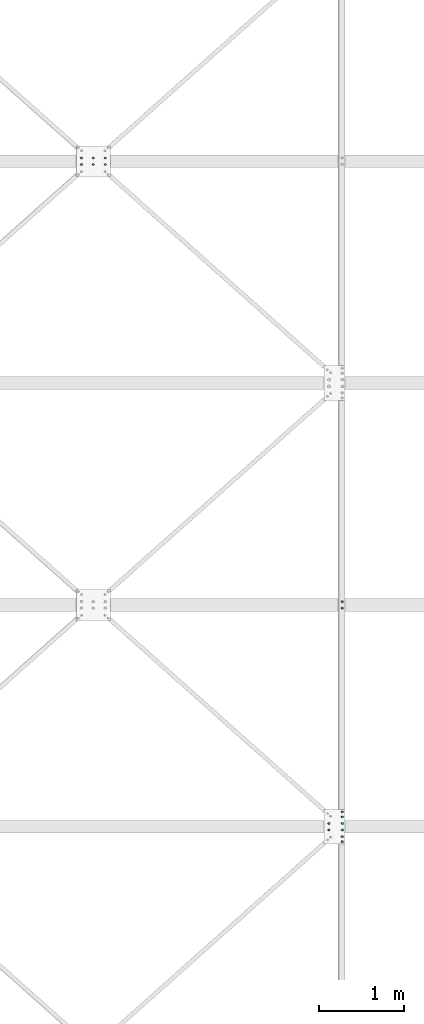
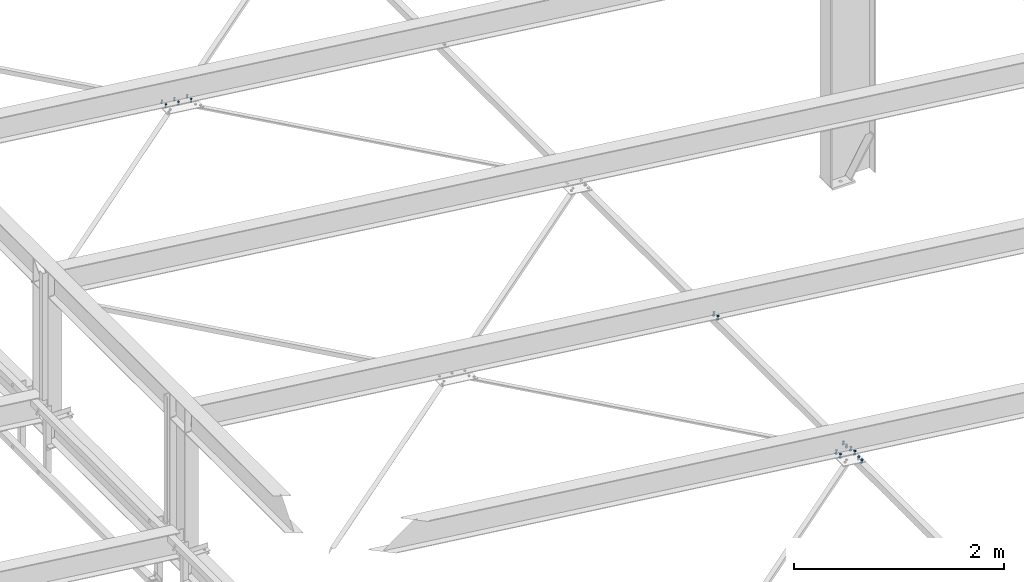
# One storey, part 256 of 3134: 5 mechanical fasteners, 4 elements without a shape of their own.
"""IFC2X3 building model written with IfcOpenShell, lengths in millimetres."""

from ifc_helpers import new_model, si_unit, frame, origin_with_axes, place, context, subcontext, project, spatial, faceted_brep, source, transform, mapped, material, type_object, element, aggregate, save


model = new_model("IFC2X3")

# Units and contexts
model_context = context("Model", 3, precision=1e-05, world=origin_with_axes())
body_context = subcontext(model_context, "Body", "Model", "MODEL_VIEW")
ifc_project = project(units=[si_unit("LENGTHUNIT", "METRE", prefix="MILLI"), si_unit("AREAUNIT", "SQUARE_METRE"), si_unit("VOLUMEUNIT", "CUBIC_METRE"), si_unit("MASSUNIT", "GRAM", prefix="KILO"), si_unit("TIMEUNIT", "SECOND"), si_unit("PLANEANGLEUNIT", "RADIAN"), si_unit("SOLIDANGLEUNIT", "STERADIAN"), si_unit("THERMODYNAMICTEMPERATUREUNIT", "DEGREE_CELSIUS"), si_unit("LUMINOUSINTENSITYUNIT", "LUMEN")], contexts=[model_context])

# Site, building, storey
site_placement = place(None, origin_with_axes())
site = spatial("IfcSite", under=ifc_project, at=site_placement, CompositionType="ELEMENT")
building_placement = place(site_placement, origin_with_axes())
building = spatial("IfcBuilding", under=site, at=building_placement, Name="Undefined", CompositionType="ELEMENT")
storey_placement = place(building_placement, origin_with_axes())
storey = spatial("IfcBuildingStorey", under=building, at=storey_placement, Name="Undefined", CompositionType="ELEMENT", Elevation=0.0)

# Assembly, mechanical fastener
assembly_1_placement = place(storey_placement, origin_with_axes())
assembly_1 = element("IfcElementAssembly", 1, at=assembly_1_placement, inside=storey, AssemblyPlace="NOTDEFINED", PredefinedType="RIGID_FRAME")
ifc_material = material(Name="8.8")
mechanical_fastener_type = type_object("IfcMechanicalFastenerType", Name="Bolt assembly")
shared_shape_1 = source(origin_with_axes(), body_context, "Body", "Brep", [
    faceted_brep([(13.856406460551, -19.199990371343, 0.0), (6.92820323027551, -19.199990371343, 12.0), (-6.92820323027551, -19.199990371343, 12.0), (-13.856406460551, -19.199990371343, 1.69692038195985e-15), (-6.92820323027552, -19.199990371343, -12.0), (6.9282032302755, -19.199990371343, -12.0), (6.9282032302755, -9.19999037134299, -12.0), (-6.92820323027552, -9.19999037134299, -12.0), (-13.856406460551, -9.19999037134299, 1.69692038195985e-15), (-6.92820323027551, -9.19999037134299, 12.0), (6.92820323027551, -9.19999037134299, 12.0), (13.856406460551, -9.19999037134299, 0.0), (8.0, -9.19999037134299, 0.0), (6.92820323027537, -9.19999037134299, 4.00000000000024), (3.99999999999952, -9.19999037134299, 6.92820323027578), (-8.29068785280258e-13, -9.19999037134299, 8.0), (-4.00000000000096, -9.19999037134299, 6.92820323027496), (-6.9282032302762, -9.19999037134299, 3.99999999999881), (-8.0, -9.19999037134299, -1.65813757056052e-12), (-6.92820323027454, -9.19999037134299, -4.00000000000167), (-3.99999999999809, -9.19999037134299, -6.92820323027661), (2.47832457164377e-12, -9.19999037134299, -8.0), (4.00000000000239, -9.19999037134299, -6.92820323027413), (6.92820323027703, -9.19999037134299, -3.99999999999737), (6.92820323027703, 35.8000002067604, -3.99999999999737), (4.00000000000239, 35.8000002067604, -6.92820323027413), (2.47832457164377e-12, 35.8000002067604, -8.0), (-3.99999999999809, 35.8000002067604, -6.92820323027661), (-6.92820323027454, 35.8000002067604, -4.00000000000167), (-8.0, 35.8000002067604, -1.65813757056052e-12), (-6.9282032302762, 35.8000002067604, 3.99999999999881), (-4.00000000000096, 35.8000002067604, 6.92820323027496), (-8.29068785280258e-13, 35.8000002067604, 8.0), (3.99999999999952, 35.8000002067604, 6.92820323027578), (6.92820323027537, 35.8000002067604, 4.00000000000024), (8.0, 35.8000002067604, 0.0), (13.856406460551, 14.9999995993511, 0.0), (6.92820323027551, 14.9999995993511, 12.0), (-6.92820323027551, 14.9999995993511, 12.0), (-13.856406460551, 14.9999995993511, 1.69692038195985e-15), (-6.92820323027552, 14.9999995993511, -12.0), (6.9282032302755, 14.9999995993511, -12.0), (6.9282032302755, 27.9999995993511, -12.0), (-6.92820323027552, 27.9999995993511, -12.0), (-13.856406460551, 27.9999995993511, 1.69692038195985e-15), (-6.92820323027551, 27.9999995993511, 12.0), (6.92820323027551, 27.9999995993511, 12.0), (13.856406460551, 27.9999995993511, 0.0)], [[[0, 1, 2, 3, 4, 5]], [[6, 7, 8, 9, 10, 11]], [[0, 11, 10, 1]], [[1, 10, 9, 2]], [[2, 9, 8, 3]], [[3, 8, 7, 4]], [[4, 7, 6, 5]], [[5, 6, 11, 0]], [[12, 13, 14, 15, 16, 17, 18, 19, 20, 21, 22, 23]], [[24, 25, 26, 27, 28, 29, 30, 31, 32, 33, 34, 35]], [[12, 35, 34, 13]], [[13, 34, 33, 14]], [[14, 33, 32, 15]], [[15, 32, 31, 16]], [[16, 31, 30, 17]], [[17, 30, 29, 18]], [[18, 29, 28, 19]], [[19, 28, 27, 20]], [[20, 27, 26, 21]], [[21, 26, 25, 22]], [[22, 25, 24, 23]], [[23, 24, 35, 12]], [[36, 37, 38, 39, 40, 41]], [[42, 43, 44, 45, 46, 47]], [[36, 47, 46, 37]], [[37, 46, 45, 38]], [[38, 45, 44, 39]], [[39, 44, 43, 40]], [[40, 43, 42, 41]], [[41, 42, 47, 36]]]),
    faceted_brep([(9.0, -9.09999037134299, 0.0), (7.79422863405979, -9.09999037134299, 4.50000000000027), (4.49999999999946, -9.09999037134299, 7.79422863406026), (-9.3270238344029e-13, -9.09999037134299, 9.0), (-4.50000000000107, -9.09999037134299, 7.79422863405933), (-7.79422863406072, -9.09999037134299, 4.49999999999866), (-9.0, -9.09999037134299, -1.86540476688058e-12), (-7.79422863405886, -9.09999037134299, -4.50000000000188), (-4.49999999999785, -9.09999037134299, -7.79422863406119), (2.78811514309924e-12, -9.09999037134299, -9.0), (4.50000000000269, -9.09999037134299, -7.7942286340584), (7.79422863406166, -9.09999037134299, -4.49999999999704), (7.79422863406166, 0.100000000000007, -4.49999999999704), (4.50000000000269, 0.100000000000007, -7.7942286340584), (2.78811514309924e-12, 0.100000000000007, -9.0), (-4.49999999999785, 0.100000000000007, -7.79422863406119), (-7.79422863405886, 0.100000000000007, -4.50000000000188), (-9.0, 0.100000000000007, -1.86540476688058e-12), (-7.79422863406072, 0.100000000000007, 4.49999999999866), (-4.50000000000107, 0.100000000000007, 7.79422863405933), (-9.3270238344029e-13, 0.100000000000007, 9.0), (4.49999999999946, 0.100000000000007, 7.79422863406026), (7.79422863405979, 0.100000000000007, 4.50000000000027), (9.0, 0.100000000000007, 0.0), (9.0, 7.9, 0.0), (7.79422863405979, 7.9, 4.50000000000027), (4.49999999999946, 7.9, 7.79422863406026), (-9.3270238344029e-13, 7.9, 9.0), (-4.50000000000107, 7.9, 7.79422863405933), (-7.79422863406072, 7.9, 4.49999999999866), (-9.0, 7.9, -1.86540476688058e-12), (-7.79422863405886, 7.9, -4.50000000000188), (-4.49999999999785, 7.9, -7.79422863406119), (2.78811514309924e-12, 7.9, -9.0), (4.50000000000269, 7.9, -7.7942286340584), (7.79422863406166, 7.9, -4.49999999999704), (7.79422863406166, 14.9999995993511, -4.49999999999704), (4.50000000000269, 14.9999995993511, -7.7942286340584), (2.78811514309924e-12, 14.9999995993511, -9.0), (-4.49999999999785, 14.9999995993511, -7.79422863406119), (-7.79422863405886, 14.9999995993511, -4.50000000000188), (-9.0, 14.9999995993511, -1.86540476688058e-12), (-7.79422863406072, 14.9999995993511, 4.49999999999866), (-4.50000000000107, 14.9999995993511, 7.79422863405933), (-9.3270238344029e-13, 14.9999995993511, 9.0), (4.49999999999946, 14.9999995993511, 7.79422863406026), (7.79422863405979, 14.9999995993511, 4.50000000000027), (9.0, 14.9999995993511, 0.0)], [[[0, 1, 2, 3, 4, 5, 6, 7, 8, 9, 10, 11]], [[12, 13, 14, 15, 16, 17, 18, 19, 20, 21, 22, 23]], [[0, 23, 22, 1]], [[1, 22, 21, 2]], [[2, 21, 20, 3]], [[3, 20, 19, 4]], [[4, 19, 18, 5]], [[5, 18, 17, 6]], [[6, 17, 16, 7]], [[7, 16, 15, 8]], [[8, 15, 14, 9]], [[9, 14, 13, 10]], [[10, 13, 12, 11]], [[11, 12, 23, 0]], [[24, 25, 26, 27, 28, 29, 30, 31, 32, 33, 34, 35]], [[36, 37, 38, 39, 40, 41, 42, 43, 44, 45, 46, 47]], [[24, 47, 46, 25]], [[25, 46, 45, 26]], [[26, 45, 44, 27]], [[27, 44, 43, 28]], [[28, 43, 42, 29]], [[29, 42, 41, 30]], [[30, 41, 40, 31]], [[31, 40, 39, 32]], [[32, 39, 38, 33]], [[33, 38, 37, 34]], [[34, 37, 36, 35]], [[35, 36, 47, 24]]]),
])
mechanical_fastener_1_placement = place(assembly_1_placement, frame((50037.9849612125, 32412.0, 4806.73358922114), z_axis=(-0.992623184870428, 0.0, 0.121240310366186), x_axis=(0.0, 1.0, 0.0)))
mechanical_fastener_1 = element("IfcMechanicalFastener", 2, at=mechanical_fastener_1_placement, type_object=mechanical_fastener_type, material=ifc_material, Name="Bolt assembly", NominalDiameter=16.0, NominalLength=45.0, context=body_context, shape_type="MappedRepresentation", body=[
    mapped(shared_shape_1, transform((0.0, 0.0, 0.0))),
    mapped(shared_shape_1, transform((76.0, 0.0, 0.0))),
])
aggregate(assembly_1, [mechanical_fastener_1])

# Assembly, mechanical fasteners
assembly_2_placement = place(storey_placement, origin_with_axes())
assembly_2 = element("IfcElementAssembly", 3, at=assembly_2_placement, inside=storey, Name="PL8", AssemblyPlace="NOTDEFINED", PredefinedType="RIGID_FRAME")
shared_shape_2 = source(origin_with_axes(), body_context, "Body", "Brep", [
    faceted_brep([(13.856406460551, -10.0, 0.0), (6.92820323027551, -10.0, 12.0), (-6.92820323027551, -10.0, 12.0), (-13.856406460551, -10.0, 1.69692038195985e-15), (-6.92820323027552, -10.0, -12.0), (6.9282032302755, -10.0, -12.0), (6.9282032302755, 0.0, -12.0), (-6.92820323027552, 0.0, -12.0), (-13.856406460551, 0.0, 1.69692038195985e-15), (-6.92820323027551, 0.0, 12.0), (6.92820323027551, 0.0, 12.0), (13.856406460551, 0.0, 0.0), (8.0, 0.0, 0.0), (6.92820323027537, 0.0, 4.00000000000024), (3.99999999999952, 0.0, 6.92820323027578), (-8.29068785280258e-13, 0.0, 8.0), (-4.00000000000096, 0.0, 6.92820323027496), (-6.9282032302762, 0.0, 3.99999999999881), (-8.0, 0.0, -1.65813757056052e-12), (-6.92820323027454, 0.0, -4.00000000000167), (-3.99999999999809, 0.0, -6.92820323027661), (2.47832457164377e-12, 0.0, -8.0), (4.00000000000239, 0.0, -6.92820323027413), (6.92820323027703, 0.0, -3.99999999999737), (6.92820323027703, 35.0000000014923, -3.99999999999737), (4.00000000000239, 35.0000000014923, -6.92820323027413), (2.47832457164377e-12, 35.0000000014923, -8.0), (-3.99999999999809, 35.0000000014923, -6.92820323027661), (-6.92820323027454, 35.0000000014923, -4.00000000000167), (-8.0, 35.0000000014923, -1.65813757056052e-12), (-6.9282032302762, 35.0000000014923, 3.99999999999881), (-4.00000000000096, 35.0000000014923, 6.92820323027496), (-8.29068785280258e-13, 35.0000000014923, 8.0), (3.99999999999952, 35.0000000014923, 6.92820323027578), (6.92820323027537, 35.0000000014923, 4.00000000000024), (8.0, 35.0000000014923, 0.0), (13.856406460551, 14.9999995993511, 0.0), (6.92820323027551, 14.9999995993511, 12.0), (-6.92820323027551, 14.9999995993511, 12.0), (-13.856406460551, 14.9999995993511, 1.69692038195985e-15), (-6.92820323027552, 14.9999995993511, -12.0), (6.9282032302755, 14.9999995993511, -12.0), (6.9282032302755, 27.9999995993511, -12.0), (-6.92820323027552, 27.9999995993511, -12.0), (-13.856406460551, 27.9999995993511, 1.69692038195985e-15), (-6.92820323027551, 27.9999995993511, 12.0), (6.92820323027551, 27.9999995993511, 12.0), (13.856406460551, 27.9999995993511, 0.0)], [[[0, 1, 2, 3, 4, 5]], [[6, 7, 8, 9, 10, 11]], [[0, 11, 10, 1]], [[1, 10, 9, 2]], [[2, 9, 8, 3]], [[3, 8, 7, 4]], [[4, 7, 6, 5]], [[5, 6, 11, 0]], [[12, 13, 14, 15, 16, 17, 18, 19, 20, 21, 22, 23]], [[24, 25, 26, 27, 28, 29, 30, 31, 32, 33, 34, 35]], [[12, 35, 34, 13]], [[13, 34, 33, 14]], [[14, 33, 32, 15]], [[15, 32, 31, 16]], [[16, 31, 30, 17]], [[17, 30, 29, 18]], [[18, 29, 28, 19]], [[19, 28, 27, 20]], [[20, 27, 26, 21]], [[21, 26, 25, 22]], [[22, 25, 24, 23]], [[23, 24, 35, 12]], [[36, 37, 38, 39, 40, 41]], [[42, 43, 44, 45, 46, 47]], [[36, 47, 46, 37]], [[37, 46, 45, 38]], [[38, 45, 44, 39]], [[39, 44, 43, 40]], [[40, 43, 42, 41]], [[41, 42, 47, 36]]]),
    faceted_brep([(9.0, 7.9, 0.0), (7.79422863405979, 7.9, 4.50000000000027), (4.49999999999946, 7.9, 7.79422863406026), (-9.3270238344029e-13, 7.9, 9.0), (-4.50000000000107, 7.9, 7.79422863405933), (-7.79422863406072, 7.9, 4.49999999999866), (-9.0, 7.9, -1.86540476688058e-12), (-7.79422863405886, 7.9, -4.50000000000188), (-4.49999999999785, 7.9, -7.79422863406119), (2.78811514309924e-12, 7.9, -9.0), (4.50000000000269, 7.9, -7.7942286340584), (7.79422863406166, 7.9, -4.49999999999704), (7.79422863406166, 14.9999995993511, -4.49999999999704), (4.50000000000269, 14.9999995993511, -7.7942286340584), (2.78811514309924e-12, 14.9999995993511, -9.0), (-4.49999999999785, 14.9999995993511, -7.79422863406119), (-7.79422863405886, 14.9999995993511, -4.50000000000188), (-9.0, 14.9999995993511, -1.86540476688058e-12), (-7.79422863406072, 14.9999995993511, 4.49999999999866), (-4.50000000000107, 14.9999995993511, 7.79422863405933), (-9.3270238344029e-13, 14.9999995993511, 9.0), (4.49999999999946, 14.9999995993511, 7.79422863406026), (7.79422863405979, 14.9999995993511, 4.50000000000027), (9.0, 14.9999995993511, 0.0), (9.0, 0.100000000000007, 0.0), (7.79422863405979, 0.100000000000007, 4.50000000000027), (4.49999999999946, 0.100000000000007, 7.79422863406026), (-9.3270238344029e-13, 0.100000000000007, 9.0), (-4.50000000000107, 0.100000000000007, 7.79422863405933), (-7.79422863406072, 0.100000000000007, 4.49999999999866), (-9.0, 0.100000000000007, -1.86540476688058e-12), (-7.79422863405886, 0.100000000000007, -4.50000000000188), (-4.49999999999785, 0.100000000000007, -7.79422863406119), (2.78811514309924e-12, 0.100000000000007, -9.0), (4.50000000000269, 0.100000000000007, -7.7942286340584), (7.79422863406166, 0.100000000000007, -4.49999999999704), (7.79422863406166, 8.1, -4.49999999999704), (4.50000000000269, 8.1, -7.7942286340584), (2.78811514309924e-12, 8.1, -9.0), (-4.49999999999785, 8.1, -7.79422863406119), (-7.79422863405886, 8.1, -4.50000000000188), (-9.0, 8.1, -1.86540476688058e-12), (-7.79422863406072, 8.1, 4.49999999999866), (-4.50000000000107, 8.1, 7.79422863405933), (-9.3270238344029e-13, 8.1, 9.0), (4.49999999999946, 8.1, 7.79422863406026), (7.79422863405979, 8.1, 4.50000000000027), (9.0, 8.1, 0.0)], [[[0, 1, 2, 3, 4, 5, 6, 7, 8, 9, 10, 11]], [[12, 13, 14, 15, 16, 17, 18, 19, 20, 21, 22, 23]], [[0, 23, 22, 1]], [[1, 22, 21, 2]], [[2, 21, 20, 3]], [[3, 20, 19, 4]], [[4, 19, 18, 5]], [[5, 18, 17, 6]], [[6, 17, 16, 7]], [[7, 16, 15, 8]], [[8, 15, 14, 9]], [[9, 14, 13, 10]], [[10, 13, 12, 11]], [[11, 12, 23, 0]], [[24, 25, 26, 27, 28, 29, 30, 31, 32, 33, 34, 35]], [[36, 37, 38, 39, 40, 41, 42, 43, 44, 45, 46, 47]], [[24, 47, 46, 25]], [[25, 46, 45, 26]], [[26, 45, 44, 27]], [[27, 44, 43, 28]], [[28, 43, 42, 29]], [[29, 42, 41, 30]], [[30, 41, 40, 31]], [[31, 40, 39, 32]], [[32, 39, 38, 33]], [[33, 38, 37, 34]], [[34, 37, 36, 35]], [[35, 36, 47, 24]]]),
])
mechanical_fastener_2_placement = place(assembly_2_placement, frame((50037.9849612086, 29735.0, 4806.73358922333), z_axis=(0.992623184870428, 0.0, -0.121240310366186), x_axis=(0.0, -1.0, 0.0)))
mechanical_fastener_2 = element("IfcMechanicalFastener", 4, at=mechanical_fastener_2_placement, type_object=mechanical_fastener_type, material=ifc_material, Name="Bolt assembly", NominalDiameter=16.0, NominalLength=35.0, context=body_context, shape_type="MappedRepresentation", body=[
    mapped(shared_shape_2, transform((0.0, 0.0, 0.0))),
    mapped(shared_shape_2, transform((59.9999999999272, 0.0, 5.40239852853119e-10))),
])
mechanical_fastener_3_placement = place(assembly_2_placement, frame((50037.9849612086, 30025.0, 4806.73358922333), z_axis=(0.992623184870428, 0.0, -0.121240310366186), x_axis=(0.0, -1.0, 0.0)))
mechanical_fastener_3 = element("IfcMechanicalFastener", 5, at=mechanical_fastener_3_placement, type_object=mechanical_fastener_type, material=ifc_material, Name="Bolt assembly", NominalDiameter=16.0, NominalLength=35.0, context=body_context, shape_type="MappedRepresentation", body=[
    mapped(shared_shape_2, transform((0.0, 0.0, 0.0))),
    mapped(shared_shape_2, transform((59.9999999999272, 0.0, 5.40239852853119e-10))),
])
aggregate(assembly_2, [mechanical_fastener_2, mechanical_fastener_3])

# Assembly, mechanical fastener
assembly_3_placement = place(storey_placement, origin_with_axes())
assembly_3 = element("IfcElementAssembly", 6, at=assembly_3_placement, inside=storey, Name="300", AssemblyPlace="NOTDEFINED", PredefinedType="RIGID_FRAME")
shared_shape_3 = source(origin_with_axes(), body_context, "Body", "Brep", [
    faceted_brep([(10.9696551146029, -17.1999998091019, 0.0), (5.48482755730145, -17.1999998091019, 9.5), (-5.48482755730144, -17.1999998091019, 9.5), (-10.9696551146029, -17.1999998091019, 1.34339530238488e-15), (-5.48482755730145, -17.1999998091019, -9.5), (5.48482755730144, -17.1999998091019, -9.50000000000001), (5.48482755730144, -9.19999978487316, -9.50000000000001), (-5.48482755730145, -9.19999978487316, -9.5), (-10.9696551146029, -9.19999978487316, 1.34339530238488e-15), (-5.48482755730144, -9.19999978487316, 9.5), (5.48482755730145, -9.19999978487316, 9.5), (10.9696551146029, -9.19999978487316, 0.0), (6.0, -9.19999978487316, 0.0), (5.19615242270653, -9.19999978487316, 3.00000000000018), (2.99999999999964, -9.19999978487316, 5.19615242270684), (-6.21801588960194e-13, -9.19999978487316, 6.0), (-3.00000000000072, -9.19999978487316, 5.19615242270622), (-5.19615242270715, -9.19999978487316, 2.9999999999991), (-6.0, -9.19999978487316, -1.24360317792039e-12), (-5.19615242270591, -9.19999978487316, -3.00000000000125), (-2.99999999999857, -9.19999978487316, -5.19615242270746), (1.85874342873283e-12, -9.19999978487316, -6.0), (3.00000000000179, -9.19999978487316, -5.1961524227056), (5.19615242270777, -9.19999978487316, -2.99999999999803), (5.19615242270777, 25.8000002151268, -2.99999999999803), (3.00000000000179, 25.8000002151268, -5.1961524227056), (1.85874342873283e-12, 25.8000002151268, -6.0), (-2.99999999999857, 25.8000002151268, -5.19615242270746), (-5.19615242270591, 25.8000002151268, -3.00000000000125), (-6.0, 25.8000002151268, -1.24360317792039e-12), (-5.19615242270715, 25.8000002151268, 2.9999999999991), (-3.00000000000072, 25.8000002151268, 5.19615242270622), (-6.21801588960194e-13, 25.8000002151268, 6.0), (2.99999999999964, 25.8000002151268, 5.19615242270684), (5.19615242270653, 25.8000002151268, 3.00000000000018), (6.0, 25.8000002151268, 0.0), (10.9696551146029, 8.0, 0.0), (5.48482755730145, 8.0, 9.5), (-5.48482755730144, 8.0, 9.5), (-10.9696551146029, 8.0, 1.34339530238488e-15), (-5.48482755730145, 8.0, -9.5), (5.48482755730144, 8.0, -9.50000000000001), (5.48482755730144, 18.0, -9.50000000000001), (-5.48482755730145, 18.0, -9.5), (-10.9696551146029, 18.0, 1.34339530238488e-15), (-5.48482755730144, 18.0, 9.5), (5.48482755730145, 18.0, 9.5), (10.9696551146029, 18.0, 0.0)], [[[0, 1, 2, 3, 4, 5]], [[6, 7, 8, 9, 10, 11]], [[0, 11, 10, 1]], [[1, 10, 9, 2]], [[2, 9, 8, 3]], [[3, 8, 7, 4]], [[4, 7, 6, 5]], [[5, 6, 11, 0]], [[12, 13, 14, 15, 16, 17, 18, 19, 20, 21, 22, 23]], [[24, 25, 26, 27, 28, 29, 30, 31, 32, 33, 34, 35]], [[12, 35, 34, 13]], [[13, 34, 33, 14]], [[14, 33, 32, 15]], [[15, 32, 31, 16]], [[16, 31, 30, 17]], [[17, 30, 29, 18]], [[18, 29, 28, 19]], [[19, 28, 27, 20]], [[20, 27, 26, 21]], [[21, 26, 25, 22]], [[22, 25, 24, 23]], [[23, 24, 35, 12]], [[36, 37, 38, 39, 40, 41]], [[42, 43, 44, 45, 46, 47]], [[36, 47, 46, 37]], [[37, 46, 45, 38]], [[38, 45, 44, 39]], [[39, 44, 43, 40]], [[40, 43, 42, 41]], [[41, 42, 47, 36]]]),
    faceted_brep([(7.0, -0.1, 0.0), (6.06217782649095, -0.1, 3.50000000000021), (3.49999999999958, -0.1, 6.06217782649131), (-7.25435187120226e-13, -0.1, 7.0), (-3.50000000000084, -0.1, 6.06217782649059), (-6.06217782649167, -0.1, 3.49999999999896), (-7.0, -0.1, -1.45087037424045e-12), (-6.06217782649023, -0.1, -3.50000000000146), (-3.49999999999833, -0.1, -6.06217782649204), (2.1685340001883e-12, -0.1, -7.0), (3.50000000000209, -0.1, -6.06217782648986), (6.0621778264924, -0.1, -3.4999999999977), (6.0621778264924, 8.0000000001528, -3.4999999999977), (3.50000000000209, 8.0000000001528, -6.06217782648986), (2.1685340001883e-12, 8.0000000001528, -7.0), (-3.49999999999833, 8.0000000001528, -6.06217782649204), (-6.06217782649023, 8.0000000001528, -3.50000000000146), (-7.0, 8.0000000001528, -1.45087037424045e-12), (-6.06217782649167, 8.0000000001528, 3.49999999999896), (-3.50000000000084, 8.0000000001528, 6.06217782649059), (-7.25435187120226e-13, 8.0000000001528, 7.0), (3.49999999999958, 8.0000000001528, 6.06217782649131), (6.06217782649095, 8.0000000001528, 3.50000000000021), (7.0, 8.0000000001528, 0.0), (7.0, -9.09999980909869, 0.0), (6.06217782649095, -9.09999980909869, 3.50000000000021), (3.49999999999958, -9.09999980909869, 6.06217782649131), (-7.25435187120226e-13, -9.09999980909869, 7.0), (-3.50000000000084, -9.09999980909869, 6.06217782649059), (-6.06217782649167, -9.09999980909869, 3.49999999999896), (-7.0, -9.09999980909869, -1.45087037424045e-12), (-6.06217782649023, -9.09999980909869, -3.50000000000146), (-3.49999999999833, -9.09999980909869, -6.06217782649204), (2.1685340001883e-12, -9.09999980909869, -7.0), (3.50000000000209, -9.09999980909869, -6.06217782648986), (6.0621778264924, -9.09999980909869, -3.4999999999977), (6.0621778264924, 0.0999999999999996, -3.4999999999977), (3.50000000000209, 0.0999999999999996, -6.06217782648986), (2.1685340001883e-12, 0.0999999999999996, -7.0), (-3.49999999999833, 0.0999999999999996, -6.06217782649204), (-6.06217782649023, 0.0999999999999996, -3.50000000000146), (-7.0, 0.0999999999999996, -1.45087037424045e-12), (-6.06217782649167, 0.0999999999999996, 3.49999999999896), (-3.50000000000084, 0.0999999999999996, 6.06217782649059), (-7.25435187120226e-13, 0.0999999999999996, 7.0), (3.49999999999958, 0.0999999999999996, 6.06217782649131), (6.06217782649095, 0.0999999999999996, 3.50000000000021), (7.0, 0.0999999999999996, 0.0)], [[[0, 1, 2, 3, 4, 5, 6, 7, 8, 9, 10, 11]], [[12, 13, 14, 15, 16, 17, 18, 19, 20, 21, 22, 23]], [[0, 23, 22, 1]], [[1, 22, 21, 2]], [[2, 21, 20, 3]], [[3, 20, 19, 4]], [[4, 19, 18, 5]], [[5, 18, 17, 6]], [[6, 17, 16, 7]], [[7, 16, 15, 8]], [[8, 15, 14, 9]], [[9, 14, 13, 10]], [[10, 13, 12, 11]], [[11, 12, 23, 0]], [[24, 25, 26, 27, 28, 29, 30, 31, 32, 33, 34, 35]], [[36, 37, 38, 39, 40, 41, 42, 43, 44, 45, 46, 47]], [[24, 47, 46, 25]], [[25, 46, 45, 26]], [[26, 45, 44, 27]], [[27, 44, 43, 28]], [[28, 43, 42, 29]], [[29, 42, 41, 30]], [[30, 41, 40, 31]], [[31, 40, 39, 32]], [[32, 39, 38, 33]], [[33, 38, 37, 34]], [[34, 37, 36, 35]], [[35, 36, 47, 24]]]),
])
mechanical_fastener_4_placement = place(assembly_3_placement, frame((47258.2022067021, 37650.0, 5146.25993625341), z_axis=(0.0, -1.0, 0.0), x_axis=(-0.992623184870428, 0.0, 0.121240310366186)))
mechanical_fastener_4 = element("IfcMechanicalFastener", 7, at=mechanical_fastener_4_placement, type_object=mechanical_fastener_type, material=ifc_material, Name="Bolt assembly", NominalDiameter=12.0, NominalLength=35.0, context=body_context, shape_type="MappedRepresentation", body=[
    mapped(shared_shape_3, transform((0.0, 0.0, -38.0))),
    mapped(shared_shape_3, transform((140.000000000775, 5.85714587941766e-10, -38.0))),
    mapped(shared_shape_3, transform((279.999999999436, -4.74756234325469e-10, -38.0))),
    mapped(shared_shape_3, transform((0.0, 0.0, 38.0))),
    mapped(shared_shape_3, transform((140.000000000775, 5.85714587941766e-10, 38.0))),
    mapped(shared_shape_3, transform((279.999999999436, -4.74756234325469e-10, 38.0))),
])
aggregate(assembly_3, [mechanical_fastener_4])

assembly_4_placement = place(storey_placement, origin_with_axes())
assembly_4 = element("IfcElementAssembly", 8, at=assembly_4_placement, inside=storey, Name="300", AssemblyPlace="NOTDEFINED", PredefinedType="RIGID_FRAME")
shared_shape_4 = source(origin_with_axes(), body_context, "Body", "Brep", [
    faceted_brep([(13.856406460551, -29.1262316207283, 0.0), (6.92820323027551, -29.1262316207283, 12.0), (-6.92820323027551, -29.1262316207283, 12.0), (-13.856406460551, -29.1262316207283, 1.69692038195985e-15), (-6.92820323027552, -29.1262316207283, -12.0), (6.9282032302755, -29.1262316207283, -12.0), (6.9282032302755, -19.1262316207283, -12.0), (-6.92820323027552, -19.1262316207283, -12.0), (-13.856406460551, -19.1262316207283, 1.69692038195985e-15), (-6.92820323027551, -19.1262316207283, 12.0), (6.92820323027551, -19.1262316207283, 12.0), (13.856406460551, -19.1262316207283, 0.0), (8.0, -19.1262316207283, 0.0), (6.92820323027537, -19.1262316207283, 4.00000000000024), (3.99999999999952, -19.1262316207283, 6.92820323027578), (-8.29068785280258e-13, -19.1262316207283, 8.0), (-4.00000000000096, -19.1262316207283, 6.92820323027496), (-6.9282032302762, -19.1262316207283, 3.99999999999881), (-8.0, -19.1262316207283, -1.65813757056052e-12), (-6.92820323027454, -19.1262316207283, -4.00000000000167), (-3.99999999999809, -19.1262316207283, -6.92820323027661), (2.47832457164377e-12, -19.1262316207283, -8.0), (4.00000000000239, -19.1262316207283, -6.92820323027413), (6.92820323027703, -19.1262316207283, -3.99999999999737), (6.92820323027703, 15.8737683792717, -3.99999999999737), (4.00000000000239, 15.8737683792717, -6.92820323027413), (2.47832457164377e-12, 15.8737683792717, -8.0), (-3.99999999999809, 15.8737683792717, -6.92820323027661), (-6.92820323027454, 15.8737683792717, -4.00000000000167), (-8.0, 15.8737683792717, -1.65813757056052e-12), (-6.9282032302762, 15.8737683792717, 3.99999999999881), (-4.00000000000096, 15.8737683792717, 6.92820323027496), (-8.29068785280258e-13, 15.8737683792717, 8.0), (3.99999999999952, 15.8737683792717, 6.92820323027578), (6.92820323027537, 15.8737683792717, 4.00000000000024), (8.0, 15.8737683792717, 0.0), (13.856406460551, 8.00000637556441, 0.0), (6.92820323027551, 8.00000637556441, 12.0), (-6.92820323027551, 8.00000637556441, 12.0), (-13.856406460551, 8.00000637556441, 1.69692038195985e-15), (-6.92820323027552, 8.00000637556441, -12.0), (6.9282032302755, 8.00000637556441, -12.0), (6.9282032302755, 21.0000063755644, -12.0), (-6.92820323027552, 21.0000063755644, -12.0), (-13.856406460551, 21.0000063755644, 1.69692038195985e-15), (-6.92820323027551, 21.0000063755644, 12.0), (6.92820323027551, 21.0000063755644, 12.0), (13.856406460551, 21.0000063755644, 0.0)], [[[0, 1, 2, 3, 4, 5]], [[6, 7, 8, 9, 10, 11]], [[0, 11, 10, 1]], [[1, 10, 9, 2]], [[2, 9, 8, 3]], [[3, 8, 7, 4]], [[4, 7, 6, 5]], [[5, 6, 11, 0]], [[12, 13, 14, 15, 16, 17, 18, 19, 20, 21, 22, 23]], [[24, 25, 26, 27, 28, 29, 30, 31, 32, 33, 34, 35]], [[12, 35, 34, 13]], [[13, 34, 33, 14]], [[14, 33, 32, 15]], [[15, 32, 31, 16]], [[16, 31, 30, 17]], [[17, 30, 29, 18]], [[18, 29, 28, 19]], [[19, 28, 27, 20]], [[20, 27, 26, 21]], [[21, 26, 25, 22]], [[22, 25, 24, 23]], [[23, 24, 35, 12]], [[36, 37, 38, 39, 40, 41]], [[42, 43, 44, 45, 46, 47]], [[36, 47, 46, 37]], [[37, 46, 45, 38]], [[38, 45, 44, 39]], [[39, 44, 43, 40]], [[40, 43, 42, 41]], [[41, 42, 47, 36]]]),
    faceted_brep([(9.0, -0.1, 0.0), (7.79422863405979, -0.1, 4.50000000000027), (4.49999999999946, -0.1, 7.79422863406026), (-9.3270238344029e-13, -0.1, 9.0), (-4.50000000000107, -0.1, 7.79422863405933), (-7.79422863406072, -0.1, 4.49999999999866), (-9.0, -0.1, -1.86540476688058e-12), (-7.79422863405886, -0.1, -4.50000000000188), (-4.49999999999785, -0.1, -7.79422863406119), (2.78811514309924e-12, -0.1, -9.0), (4.50000000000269, -0.1, -7.7942286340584), (7.79422863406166, -0.1, -4.49999999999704), (7.79422863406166, 8.00000000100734, -4.49999999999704), (4.50000000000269, 8.00000000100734, -7.7942286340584), (2.78811514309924e-12, 8.00000000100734, -9.0), (-4.49999999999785, 8.00000000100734, -7.79422863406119), (-7.79422863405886, 8.00000000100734, -4.50000000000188), (-9.0, 8.00000000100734, -1.86540476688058e-12), (-7.79422863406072, 8.00000000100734, 4.49999999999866), (-4.50000000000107, 8.00000000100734, 7.79422863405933), (-9.3270238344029e-13, 8.00000000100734, 9.0), (4.49999999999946, 8.00000000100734, 7.79422863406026), (7.79422863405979, 8.00000000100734, 4.50000000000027), (9.0, 8.00000000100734, 0.0), (9.0, -19.0262316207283, 0.0), (7.79422863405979, -19.0262316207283, 4.50000000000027), (4.49999999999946, -19.0262316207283, 7.79422863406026), (-9.3270238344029e-13, -19.0262316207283, 9.0), (-4.50000000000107, -19.0262316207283, 7.79422863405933), (-7.79422863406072, -19.0262316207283, 4.49999999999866), (-9.0, -19.0262316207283, -1.86540476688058e-12), (-7.79422863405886, -19.0262316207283, -4.50000000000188), (-4.49999999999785, -19.0262316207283, -7.79422863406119), (2.78811514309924e-12, -19.0262316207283, -9.0), (4.50000000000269, -19.0262316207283, -7.7942286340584), (7.79422863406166, -19.0262316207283, -4.49999999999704), (7.79422863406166, -9.82623181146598, -4.49999999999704), (4.50000000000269, -9.82623181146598, -7.7942286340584), (2.78811514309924e-12, -9.82623181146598, -9.0), (-4.49999999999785, -9.82623181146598, -7.79422863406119), (-7.79422863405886, -9.82623181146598, -4.50000000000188), (-9.0, -9.82623181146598, -1.86540476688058e-12), (-7.79422863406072, -9.82623181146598, 4.49999999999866), (-4.50000000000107, -9.82623181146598, 7.79422863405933), (-9.3270238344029e-13, -9.82623181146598, 9.0), (4.49999999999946, -9.82623181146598, 7.79422863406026), (7.79422863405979, -9.82623181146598, 4.50000000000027), (9.0, -9.82623181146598, 0.0)], [[[0, 1, 2, 3, 4, 5, 6, 7, 8, 9, 10, 11]], [[12, 13, 14, 15, 16, 17, 18, 19, 20, 21, 22, 23]], [[0, 23, 22, 1]], [[1, 22, 21, 2]], [[2, 21, 20, 3]], [[3, 20, 19, 4]], [[4, 19, 18, 5]], [[5, 18, 17, 6]], [[6, 17, 16, 7]], [[7, 16, 15, 8]], [[8, 15, 14, 9]], [[9, 14, 13, 10]], [[10, 13, 12, 11]], [[11, 12, 23, 0]], [[24, 25, 26, 27, 28, 29, 30, 31, 32, 33, 34, 35]], [[36, 37, 38, 39, 40, 41, 42, 43, 44, 45, 46, 47]], [[24, 47, 46, 25]], [[25, 46, 45, 26]], [[26, 45, 44, 27]], [[27, 44, 43, 28]], [[28, 43, 42, 29]], [[29, 42, 41, 30]], [[30, 41, 40, 31]], [[31, 40, 39, 32]], [[32, 39, 38, 33]], [[33, 38, 37, 34]], [[34, 37, 36, 35]], [[35, 36, 47, 24]]]),
])
mechanical_fastener_5_placement = place(assembly_4_placement, frame((49958.5751064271, 29812.0, 4816.43281405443), z_axis=(-0.992623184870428, 0.0, 0.121240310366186), x_axis=(0.0, 1.0, 0.0)))
mechanical_fastener_5 = element("IfcMechanicalFastener", 9, at=mechanical_fastener_5_placement, type_object=mechanical_fastener_type, material=ifc_material, Name="Bolt assembly", NominalDiameter=16.0, NominalLength=35.0, context=body_context, shape_type="MappedRepresentation", body=[
    mapped(shared_shape_4, transform((0.0, -5.32963895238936e-10, -79.9999999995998))),
    mapped(shared_shape_4, transform((76.0, -5.32963895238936e-10, -79.9999999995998))),
    mapped(shared_shape_4, transform((0.0, 5.3114490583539e-10, 79.9999999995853))),
    mapped(shared_shape_4, transform((76.0, 5.3114490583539e-10, 79.9999999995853))),
])
aggregate(assembly_4, [mechanical_fastener_5])

save(model, "model.ifc")
